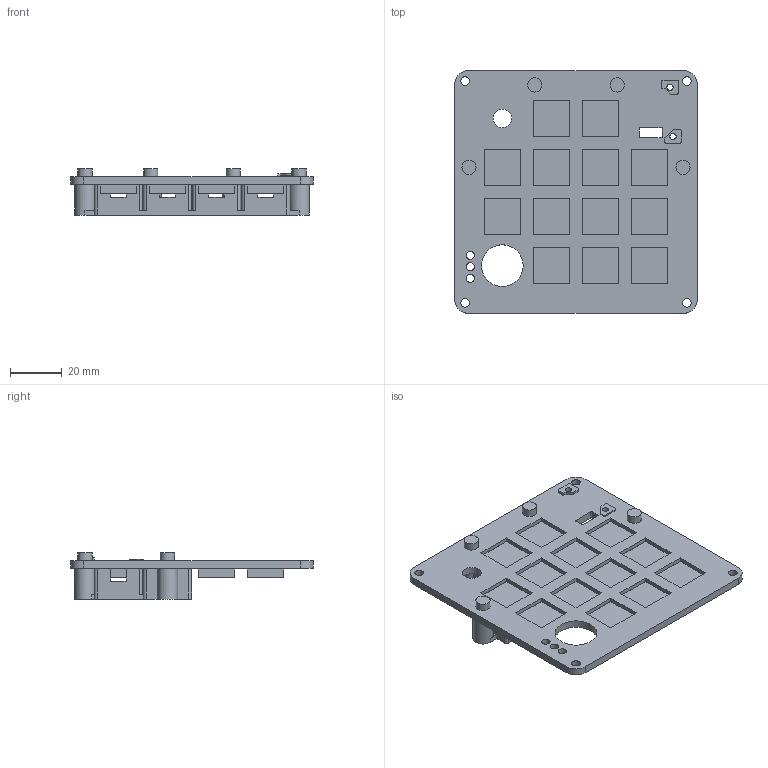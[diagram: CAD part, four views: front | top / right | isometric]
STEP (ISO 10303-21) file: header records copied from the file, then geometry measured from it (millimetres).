
FILE_DESCRIPTION(('Open CASCADE Model'),'2;1');
FILE_NAME('Open CASCADE Shape Model','2026-09-14T21:26:15',('Author'),( 'Open CASCADE'),'Open CASCADE STEP processor 7.9','Open CASCADE 7.9' ,'Unknown');
FILE_SCHEMA(('AUTOMOTIVE_DESIGN { 1 0 10303 214 1 1 1 1 }'));
Length unit declared in the file: millimetre
Products named in the file (30): TWO_LAYER_BAFFLE_V3_EXISTING_HARDWARE_PHYSICAL_FIT_PENDING; PRINT_upper_plate; PRINT_lower_baffle_tray; REUSE_M3x8_screw_0; REUSE_M3x4_heatset_insert_0; REUSE_M3x8_screw_1; REUSE_M3x4_heatset_insert_1; REUSE_M3x8_screw_2; REUSE_M3x4_heatset_insert_2; REUSE_M3x8_screw_3; REUSE_M3x4_heatset_insert_3; REF_switch_envelope_0; REF_switch_envelope_1; REF_switch_envelope_2; REF_switch_envelope_3; REF_switch_envelope_4; REF_switch_envelope_5; REF_switch_envelope_6; REF_switch_envelope_7; REF_switch_envelope_8; REF_switch_envelope_9; REF_switch_envelope_10; REF_switch_envelope_11; REF_switch_envelope_12; REF_LED_envelope_0; REF_LED_envelope_1; REF_LED_envelope_2; REF_LED_envelope_3; REF_LED_envelope_4; REF_LED_envelope_5
Assembly tree (29 placements, depth 2):
  TWO_LAYER_BAFFLE_V3_EXISTING_HARDWARE_PHYSICAL_FIT_PENDING
    PRINT_upper_plate
    PRINT_lower_baffle_tray
    REUSE_M3x8_screw_0
    REUSE_M3x4_heatset_insert_0
    REUSE_M3x8_screw_1
    REUSE_M3x4_heatset_insert_1
    REUSE_M3x8_screw_2
    REUSE_M3x4_heatset_insert_2
    REUSE_M3x8_screw_3
    REUSE_M3x4_heatset_insert_3
    REF_switch_envelope_0
    REF_switch_envelope_1
    REF_switch_envelope_2
    REF_switch_envelope_3
    REF_switch_envelope_4
    REF_switch_envelope_5
    REF_switch_envelope_6
    REF_switch_envelope_7
    REF_switch_envelope_8
    REF_switch_envelope_9
    REF_switch_envelope_10
    REF_switch_envelope_11
    REF_switch_envelope_12
    REF_LED_envelope_0
    REF_LED_envelope_1
    REF_LED_envelope_2
    REF_LED_envelope_3
    REF_LED_envelope_4
    REF_LED_envelope_5
Bounding box: 94 x 94 x 18 mm (x, y, z)
Volume: 40837.4 mm3; surface area: 41417.8 mm2
Topology: 29 solids, 29 shells, 664 faces, 1716 edges, 1144 vertices
Faces by surface type: plane 510, cylinder 154
Full cylindrical faces by diameter (mm): 2.4 x2, 3 x8, 3.2 x3, 3.4 x12, 3.9 x4, 4.2 x4, 5.5 x4, 7.2 x1, 8 x1, 16.2 x1
Entity records: 42997 total; most frequent: CARTESIAN_POINT 8207, DIRECTION 6147, LINE 3897, VECTOR 3897, ORIENTED_EDGE 3432, PCURVE 3432, DEFINITIONAL_REPRESENTATION 3432, EDGE_CURVE 1716
